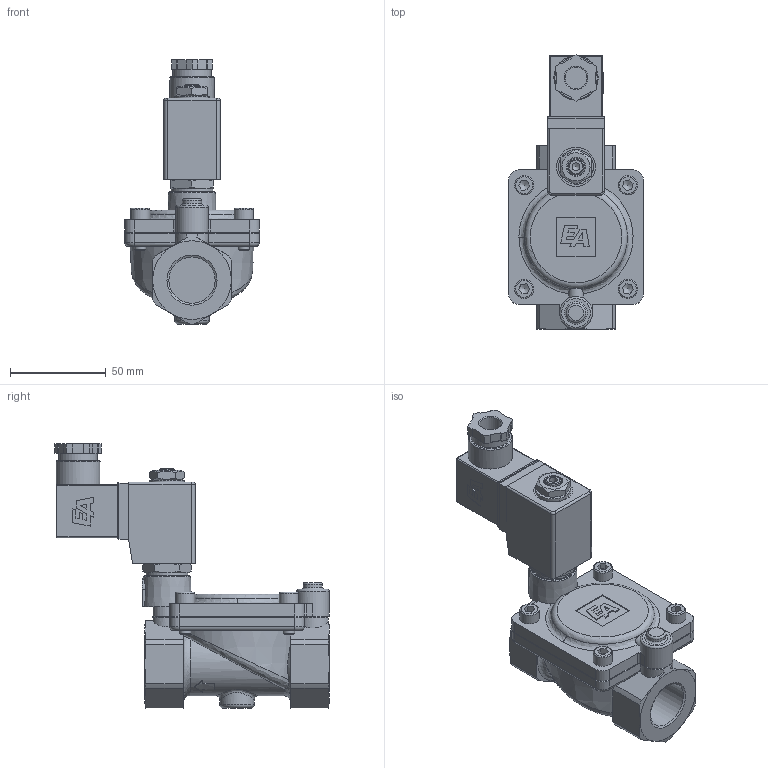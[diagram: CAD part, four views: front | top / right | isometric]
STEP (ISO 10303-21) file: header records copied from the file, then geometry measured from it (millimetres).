
FILE_DESCRIPTION((''),'2;1');
FILE_NAME('H:\Zeichnungen\STEP\MGMG2S12XX43020.stp','2009-10-09T08:59:53',('heidemann'),(''),'Autodesk Inventor 2010','Autodesk Inventor 2010','');
FILE_SCHEMA(('AUTOMOTIVE_DESIGN { 1 0 10303 214 1 1 1 1 }'));
Length unit declared in the file: millimetre
Products named in the file (11): MGMG2S12XX43020; GGG0020_20_0024; DEQ0700-SGXX43; TA-S343-NC-30-002-15; DIN 912  (Regelgewinde) - ersetzt durch DIN EN ISO 4762 M6 x 16; SGXX43; DIN EN ISO 7045 H M3 x 30 - 4.8 - H; DIN 128 A10; DIN EN 28 675  (Feingewinde) M10 x 1; DIN 125-1  A Scheibe 41er Spule; GES-STR-0001
Assembly tree (13 placements, depth 2):
  MGMG2S12XX43020
    GGG0020_20_0024
    DEQ0700-SGXX43
    TA-S343-NC-30-002-15
    DIN 912  (Regelgewinde) - ersetzt durch DIN EN ISO 4762 M6 x 16  x4
    SGXX43
    DIN EN ISO 7045 H M3 x 30 - 4.8 - H
    DIN 128 A10
    DIN EN 28 675  (Feingewinde) M10 x 1
    DIN 125-1  A Scheibe 41er Spule
    GES-STR-0001
Bounding box: 70 x 142.92 x 137.8 mm (x, y, z)
Volume: 293676.1 mm3; surface area: 68438.4 mm2
Topology: 13 solids, 13 shells, 497 faces, 1230 edges, 784 vertices
Faces by surface type: plane 280, cylinder 89, cone 67, bspline 36, torus 20, sphere 5
Full cylindrical faces by diameter (mm): 2.729 x1, 3 x1, 3.2 x1, 6 x4, 6.5 x4, 7.3 x1, 7.9 x1, 9.7 x1, 10 x7, 11.3 x1, 13.4 x1, 14.4 x1, 17 x1, 18 x2, 20 x2, 20.3 x1, 21.75 x1, 22 x1, 23 x1
Entity records: 15134 total; most frequent: CARTESIAN_POINT 4549, ORIENTED_EDGE 2094, DIRECTION 2061, EDGE_CURVE 1047, AXIS2_PLACEMENT_3D 741, VERTEX_POINT 710, VECTOR 579, LINE 579
